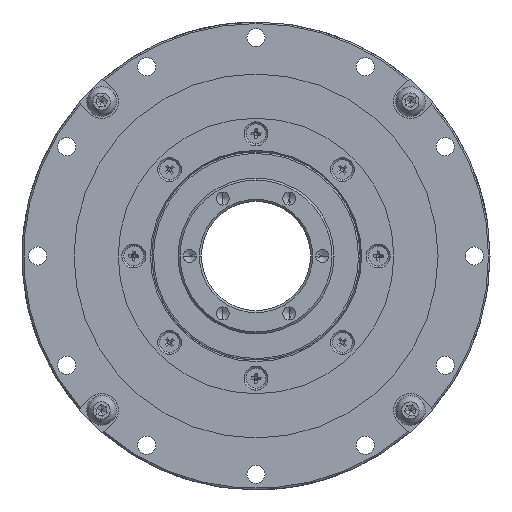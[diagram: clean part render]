
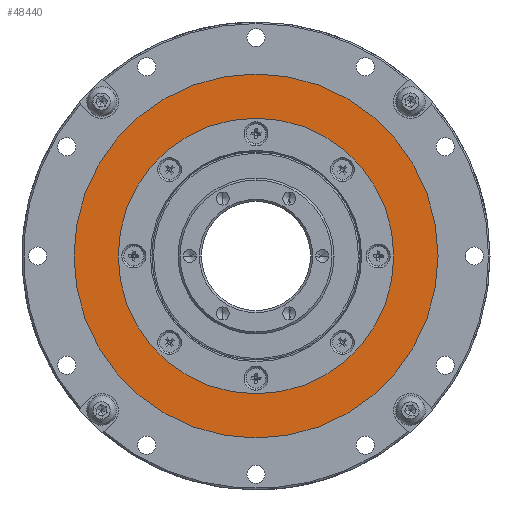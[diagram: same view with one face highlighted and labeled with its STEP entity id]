
A CAD part, left-side view. The second image highlights one B-rep face of the part: STEP entity #48440.
In plain terms, the highlighted planar face has unit normal (-1, 0, 0).
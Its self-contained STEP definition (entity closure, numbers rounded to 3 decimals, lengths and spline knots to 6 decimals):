
#956 = DIRECTION ( 'NONE',  ( 1., 0., 0. ) ) ;
#1034 = CARTESIAN_POINT ( 'NONE',  ( 0.002, 0., 0.035 ) ) ;
#2364 = CIRCLE ( 'NONE', #71883, 0.0265 ) ;
#2711 = VERTEX_POINT ( 'NONE', #65362 ) ;
#2978 = CARTESIAN_POINT ( 'NONE',  ( 0.002, 0., 0. ) ) ;
#5164 = EDGE_CURVE ( 'NONE', #17171, #60219, #68856, .T. ) ;
#5681 = DIRECTION ( 'NONE',  ( 0., 0., -1. ) ) ;
#5763 = DIRECTION ( 'NONE',  ( 1., 0., 0. ) ) ;
#6079 = DIRECTION ( 'NONE',  ( -1., 0., 0. ) ) ;
#6920 = CIRCLE ( 'NONE', #20090, 0.0265 ) ;
#12189 = CARTESIAN_POINT ( 'NONE',  ( 0.002, 0., -0.035 ) ) ;
#15523 = FACE_OUTER_BOUND ( 'NONE', #66071, .T. ) ;
#16605 = CARTESIAN_POINT ( 'NONE',  ( 0.002, 0., 0. ) ) ;
#17171 = VERTEX_POINT ( 'NONE', #12189 ) ;
#20090 = AXIS2_PLACEMENT_3D ( 'NONE', #34178, #62312, #5681 ) ;
#20219 = DIRECTION ( 'NONE',  ( 1., 0., 0. ) ) ;
#21756 = AXIS2_PLACEMENT_3D ( 'NONE', #23005, #5763, #23738 ) ;
#23005 = CARTESIAN_POINT ( 'NONE',  ( 0.002, -0.035, 0. ) ) ;
#23738 = DIRECTION ( 'NONE',  ( 0., 0., 1. ) ) ;
#23777 = EDGE_LOOP ( 'NONE', ( #26244, #32770 ) ) ;
#26244 = ORIENTED_EDGE ( 'NONE', *, *, #65336, .F. ) ;
#30148 = ORIENTED_EDGE ( 'NONE', *, *, #49936, .F. ) ;
#32401 = ORIENTED_EDGE ( 'NONE', *, *, #5164, .F. ) ;
#32770 = ORIENTED_EDGE ( 'NONE', *, *, #62268, .F. ) ;
#34178 = CARTESIAN_POINT ( 'NONE',  ( 0.002, 0., 0. ) ) ;
#38357 = CARTESIAN_POINT ( 'NONE',  ( 0.002, 0., -0.0265 ) ) ;
#40227 = DIRECTION ( 'NONE',  ( 0., 0., -1. ) ) ;
#48440 = ADVANCED_FACE ( 'NONE', ( #15523, #52634 ), #63854, .F. ) ;
#49936 = EDGE_CURVE ( 'NONE', #60219, #17171, #66217, .T. ) ;
#50920 = AXIS2_PLACEMENT_3D ( 'NONE', #2978, #20219, #66710 ) ;
#52634 = FACE_BOUND ( 'NONE', #23777, .T. ) ;
#57890 = VERTEX_POINT ( 'NONE', #38357 ) ;
#58329 = DIRECTION ( 'NONE',  ( 0., 0., -1. ) ) ;
#60219 = VERTEX_POINT ( 'NONE', #1034 ) ;
#62268 = EDGE_CURVE ( 'NONE', #2711, #57890, #6920, .T. ) ;
#62312 = DIRECTION ( 'NONE',  ( -1., 0., 0. ) ) ;
#63854 = PLANE ( 'NONE',  #21756 ) ;
#64686 = CARTESIAN_POINT ( 'NONE',  ( 0.002, 0., 0. ) ) ;
#65336 = EDGE_CURVE ( 'NONE', #57890, #2711, #2364, .T. ) ;
#65362 = CARTESIAN_POINT ( 'NONE',  ( 0.002, 0., 0.0265 ) ) ;
#66071 = EDGE_LOOP ( 'NONE', ( #32401, #30148 ) ) ;
#66217 = CIRCLE ( 'NONE', #69822, 0.035 ) ;
#66710 = DIRECTION ( 'NONE',  ( 0., 0., -1. ) ) ;
#68856 = CIRCLE ( 'NONE', #50920, 0.035 ) ;
#69822 = AXIS2_PLACEMENT_3D ( 'NONE', #64686, #956, #58329 ) ;
#71883 = AXIS2_PLACEMENT_3D ( 'NONE', #16605, #6079, #40227 ) ;
